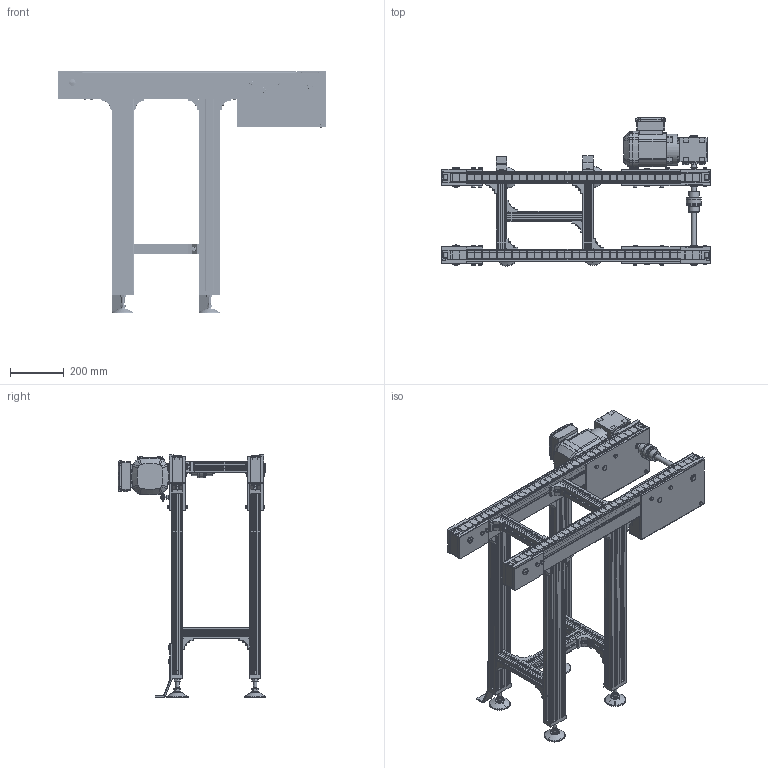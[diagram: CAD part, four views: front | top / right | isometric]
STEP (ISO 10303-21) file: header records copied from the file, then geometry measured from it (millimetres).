
FILE_DESCRIPTION(/* description */ (''),/* implementation_level */ '2;1');
FILE_NAME(/* name */ 'C:\Marketing\01_Versamove-SPU_STEP-Dateien-Homepage\VersamoveStandard\B320\STEP-Dateien\Flachplattenförderer_FPF-P-2045_B320_L1000.stp',/* time_stamp */ '2016-12-19T15:36:33+01:00',/* author */ ('herbert.engels'),/* organization */ (''),/* preprocessor_version */ 'ST-DEVELOPER v15.6',/* originating_system */ 'Autodesk Inventor 2015',/* authorisation */ '');
FILE_SCHEMA (('CONFIG_CONTROL_DESIGN'));
Products named in the file (1): Flachplattenförderer_FPF-P-2045_B320_L1000
Bounding box: 1000.5 x 550.57 x 905.3 mm (x, y, z)
Volume: 18725690.3 mm3; surface area: 4728289.3 mm2
Topology: 5 solids, 5 shells, 5382 faces, 14888 edges, 9574 vertices
Faces by surface type: plane 3527, cylinder 1321, cone 345, torus 123, sphere 50, bspline 16
Full cylindrical faces by diameter (mm): 2 x8, 6 x12, 6.647 x8, 7.323 x4, 8 x61, 8.7 x4, 9 x8, 10 x4, 10.066 x1, 11.4 x20, 12 x8, 13 x70, 13.6 x8, 14 x40, 15 x8, 18 x4, 19 x4, 19.77 x4, 20 x17, 25 x1, 25.05 x4, 28 x1, 30 x2, 40 x2, 53 x1, 54 x2, 56 x3, 79 x4, 117 x1
Entity records: 176720 total; most frequent: CARTESIAN_POINT 34827, ORIENTED_EDGE 28508, DIRECTION 27431, EDGE_CURVE 14247, LINE 10027, VECTOR 10027, VERTEX_POINT 9418, AXIS2_PLACEMENT_3D 8702
